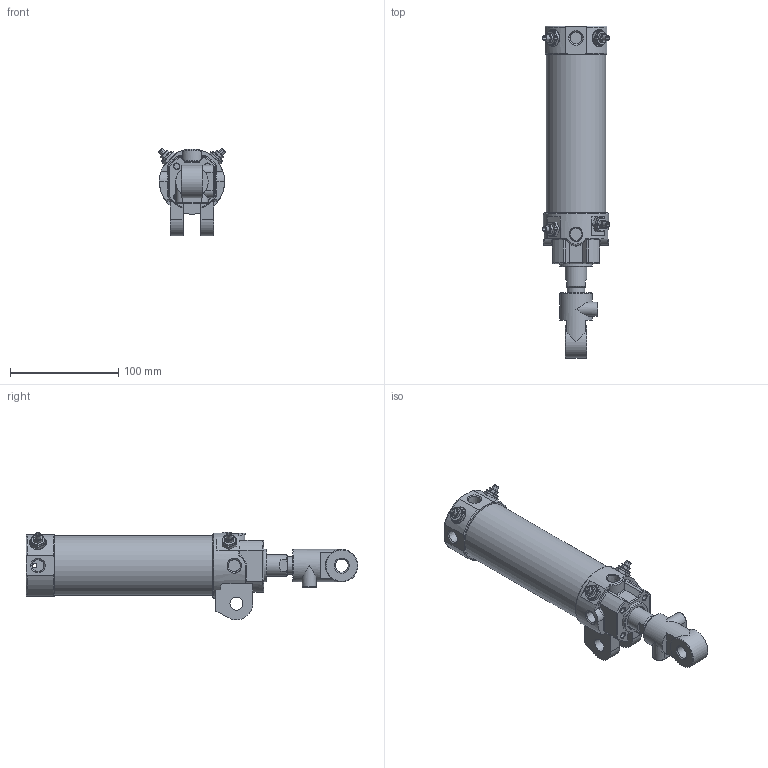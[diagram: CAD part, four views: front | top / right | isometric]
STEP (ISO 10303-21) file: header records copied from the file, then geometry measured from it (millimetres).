
FILE_DESCRIPTION((''),'2;1');
FILE_NAME('I:\3D電子目錄\氣缸\DCK\DCK\DCK-1B-50x100-I.stp','2008-02-26T14:23:22',('Administrator'),(''),'Autodesk Inventor 11','Autodesk Inventor 11','');
FILE_SCHEMA(('AUTOMOTIVE_DESIGN { 1 0 10303 214 1 1 1 1 }'));
Length unit declared in the file: millimetre
Products named in the file (6): DCK-1B-50-I; DCK-1A-50-I; 緩衝針; 緩衝針-1; 緩衝針-201; 緩衝針-3
Assembly tree (8 placements, depth 3):
  DCK-1B-50-I
    DCK-1A-50-I
    緩衝針  x4
      緩衝針-1
      緩衝針-201
      緩衝針-3
Bounding box: 61.76 x 306 x 80.87 mm (x, y, z)
Volume: 278897.1 mm3; surface area: 118252.2 mm2
Topology: 16 solids, 16 shells, 617 faces, 1375 edges, 859 vertices
Faces by surface type: plane 227, cylinder 180, cone 141, torus 35, bspline 34
Full cylindrical faces by diameter (mm): 2 x2, 3 x4, 3.8 x2, 4 x6, 4.6 x4, 5 x8, 5.1 x4, 5.2 x12, 5.5 x4, 7.25 x1, 7.9 x4, 8 x2, 10.3 x1, 11.3 x1, 12 x5, 12.8 x4, 16 x3, 20 x1, 21 x1, 22 x2, 23 x1, 24.7 x1, 26 x1, 27 x1, 28 x1, 29 x1, 30 x3, 33 x1, 49.5 x1, 52 x2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
Entity records: 12811 total; most frequent: CARTESIAN_POINT 5086, DIRECTION 1580, ORIENTED_EDGE 1388, EDGE_CURVE 694, AXIS2_PLACEMENT_3D 690, EDGE_LOOP 570, VERTEX_POINT 506, FACE_OUTER_BOUND 368
